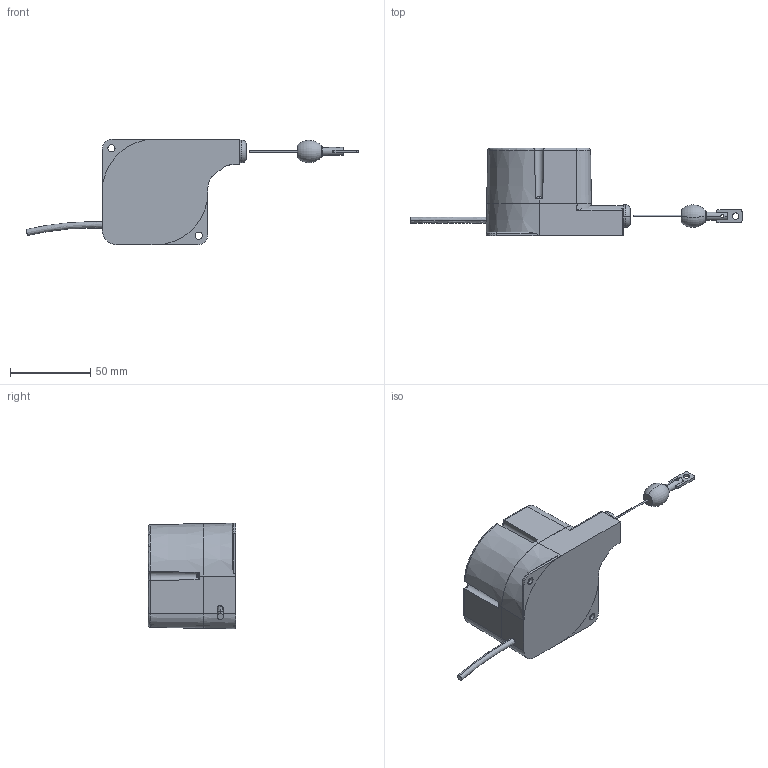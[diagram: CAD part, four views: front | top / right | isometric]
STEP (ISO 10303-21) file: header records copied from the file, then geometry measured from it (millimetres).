
FILE_DESCRIPTION (( 'STEP AP214' ), '1' );
FILE_NAME ('DES-01_DEX-01_Assem1.STEP', '2024-07-18T02:45:58', ( '' ), ( '' ), 'SwSTEP 2.0', 'SolidWorks 2023', '' );
FILE_SCHEMA (( 'AUTOMOTIVE_DESIGN' ));
Length unit declared in the file: millimetre
Products named in the file (6): DES-01_DEX-01_Part1; SCREW M2 X6 MM; DES-01_DEX-01_Part4; DES-01_DEX-01_Part2; DES-01_DEX-01_Assem1; DES-01_DEX-01_Part3
Assembly tree (8 placements, depth 2):
  DES-01_DEX-01_Assem1
    DES-01_DEX-01_Part1
    DES-01_DEX-01_Part2
    DES-01_DEX-01_Part3
    DES-01_DEX-01_Part4
    SCREW M2 X6 MM  x4
Bounding box: 207.17 x 54.8 x 66 mm (x, y, z)
Volume: 213524.9 mm3; surface area: 33656.3 mm2
Topology: 12 solids, 12 shells, 254 faces, 670 edges, 446 vertices
Faces by surface type: plane 100, cylinder 65, bspline 38, cone 29, torus 22
Entity records: 7444 total; most frequent: CARTESIAN_POINT 2840, ORIENTED_EDGE 928, DIRECTION 906, EDGE_CURVE 464, AXIS2_PLACEMENT_3D 361, VERTEX_POINT 305, EDGE_LOOP 205, CIRCLE 191
